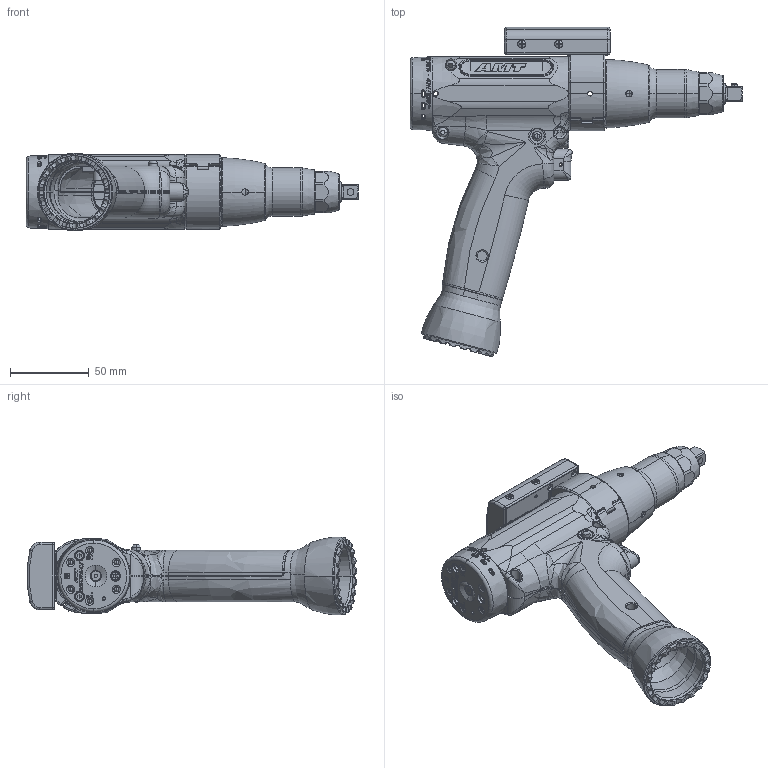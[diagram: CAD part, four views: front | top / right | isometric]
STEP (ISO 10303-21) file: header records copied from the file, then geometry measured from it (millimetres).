
FILE_DESCRIPTION (( 'STEP AP214' ), '1' );
FILE_NAME ('7900227_PCX1025ZV38_GyroFlex.STEP', '2012-02-07T16:46:40', ( ' ' ), ( '' ), 'SwSTEP 2.0', 'SolidWorks 2009', '' );
FILE_SCHEMA (( 'AUTOMOTIVE_DESIGN' ));
Length unit declared in the file: millimetre
Products named in the file (1): 7900227_PCX1025ZV38_GyroFlex
Bounding box: 210.8 x 209.36 x 49.52 mm (x, y, z)
Surface area: 70839.6 mm2 (no closed solid volume)
Topology: 0 solids, 61 shells, 1269 faces, 4701 edges, 3366 vertices
Faces by surface type: cylinder 442, plane 332, bspline 264, cone 102, torus 94, sphere 35
Entity records: 92937 total; most frequent: CARTESIAN_POINT 43950, ORIENTED_EDGE 7202, DIRECTION 6108, EDGE_CURVE 4655, VERTEX_POINT 3356, AXIS2_PLACEMENT_3D 2269, B_SPLINE_CURVE_WITH_KNOTS 1652, VECTOR 1570
